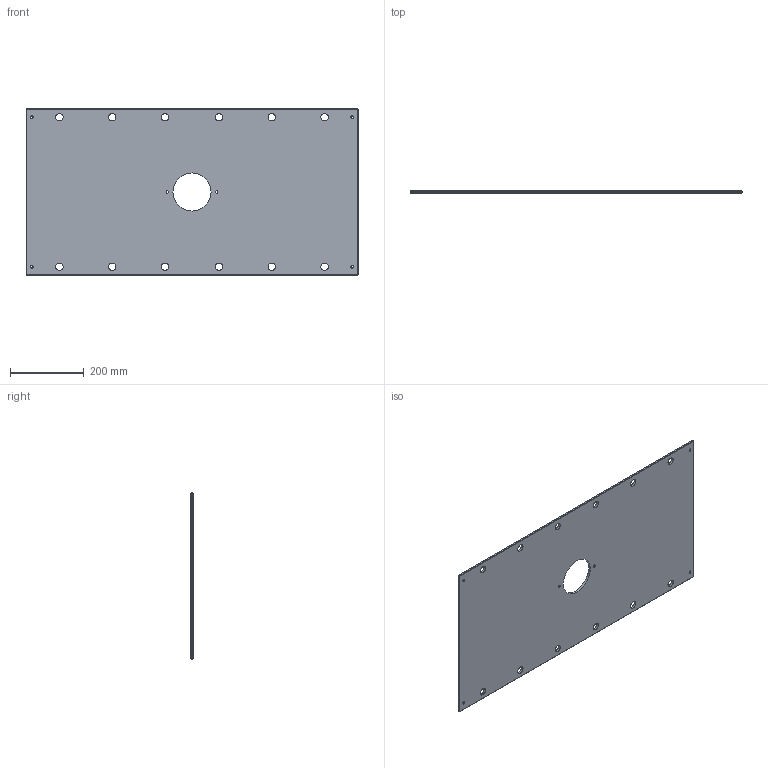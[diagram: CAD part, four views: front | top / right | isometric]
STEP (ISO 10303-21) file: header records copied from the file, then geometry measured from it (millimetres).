
FILE_DESCRIPTION (( 'STEP AP214' ), '1' );
FILE_NAME ('ME-0619-CH-1835.STEP', '2020-02-11T18:13:29', ( '' ), ( '' ), 'SwSTEP 2.0', 'SolidWorks 2018', '' );
FILE_SCHEMA (( 'AUTOMOTIVE_DESIGN' ));
Length unit declared in the file: inch
Products named in the file (1): ME-0619-CH-1835
Bounding box: 898.52 x 6.35 x 450.85 mm (x, y, z)
Volume: 2488633.6 mm3; surface area: 806196.6 mm2
Topology: 1 solids, 1 shells, 76 faces, 186 edges, 112 vertices
Faces by surface type: cylinder 38, plane 26, cone 12
Entity records: 2346 total; most frequent: DIRECTION 428, CARTESIAN_POINT 375, ORIENTED_EDGE 372, EDGE_CURVE 186, AXIS2_PLACEMENT_3D 165, EDGE_LOOP 114, VERTEX_POINT 112, LINE 98
